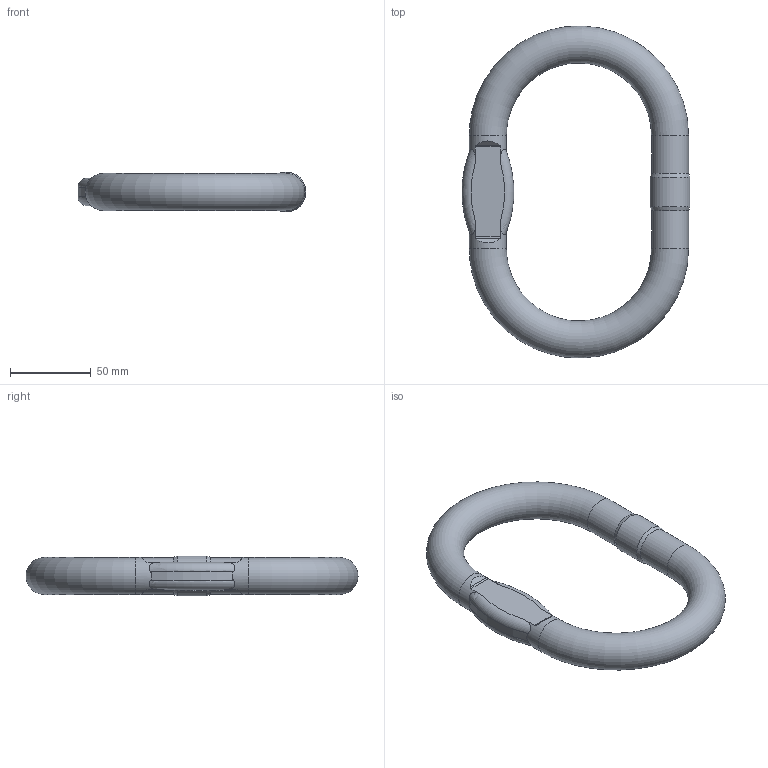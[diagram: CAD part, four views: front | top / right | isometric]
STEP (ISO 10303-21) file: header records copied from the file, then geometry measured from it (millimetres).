
FILE_DESCRIPTION(/* description */ (''),/* implementation_level */ '2;1');
FILE_NAME(/* name */ 'AWP_22.stp',/* time_stamp */ '2018-02-23T10:28:50+01:00',/* author */ (''),/* organization */ (''),/* preprocessor_version */ 'ST-DEVELOPER v16',/* originating_system */ 'SIEMENS PLM Software NX 11.0',/* authorisation */ '');
FILE_SCHEMA (('AUTOMOTIVE_DESIGN { 1 0 10303 214 3 1 1 1 }'));
Length unit declared in the file: millimetre
Products named in the file (1): kch1114C08Dlj8x
Bounding box: 141.41 x 205.93 x 24.73 mm (x, y, z)
Volume: 209022 mm3; surface area: 36589.7 mm2
Topology: 1 solids, 1 shells, 147 faces, 403 edges, 268 vertices
Faces by surface type: plane 74, extrusion 49, cylinder 16, torus 6, cone 2
Full cylindrical faces by diameter (mm): 23 x4, 24.725 x1
Entity records: 5209 total; most frequent: CARTESIAN_POINT 1893, ORIENTED_EDGE 780, DIRECTION 455, EDGE_CURVE 390, B_SPLINE_CURVE_WITH_KNOTS 265, VERTEX_POINT 264, VECTOR 189, EDGE_LOOP 168
